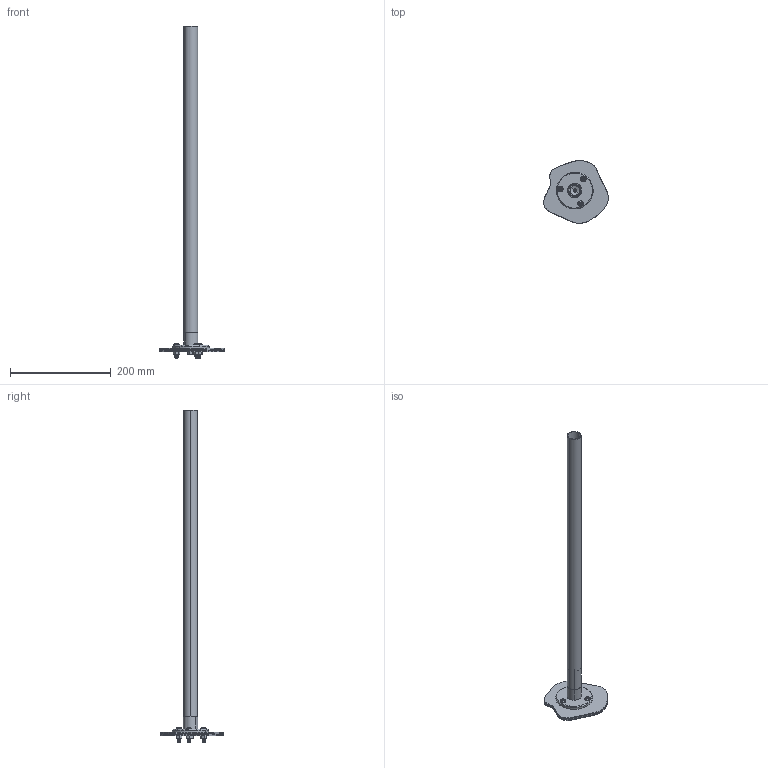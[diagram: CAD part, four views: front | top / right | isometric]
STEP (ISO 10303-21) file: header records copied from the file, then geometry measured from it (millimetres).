
FILE_DESCRIPTION (( 'STEP AP214' ), '1' );
FILE_NAME ('Threaded End to Flange to Perpendicular Surface Connection.STEP', '2013-08-19T14:15:29', ( 'ydmin' ), ( 'Microsoft' ), 'SwSTEP 2.0', 'SolidWorks 2013', '' );
FILE_SCHEMA (( 'AUTOMOTIVE_DESIGN' ));
Length unit declared in the file: inch
Products named in the file (7): Perpendicular Surface_With Mounting Holes; Threaded End to Flange to Perpendicular Surface Connection; 95479A111_95479A111; 6.000 Inch Tube; 91255A542_91255A542; DRP-002-0518-00; DRP-002-0506-00
Assembly tree (11 placements, depth 2):
  Threaded End to Flange to Perpendicular Surface Connection
    Perpendicular Surface_With Mounting Holes
    DRP-002-0506-00
    DRP-002-0518-00
    91255A542_91255A542  x3
    6.000 Inch Tube
    95479A111_95479A111  x4
Bounding box: 128.66 x 124.76 x 660.4 mm (x, y, z)
Volume: 181453.7 mm3; surface area: 201949.5 mm2
Topology: 15 solids, 15 shells, 1102 faces, 2287 edges, 1221 vertices
Faces by surface type: cone 508, cylinder 462, plane 108, bspline 14, sphere 8, torus 2
Entity records: 27384 total; most frequent: CARTESIAN_POINT 12593, DIRECTION 2394, ORIENTED_EDGE 2314, EDGE_CURVE 1157, AXIS2_PLACEMENT_3D 939, VERTEX_POINT 628, EDGE_LOOP 595, ADVANCED_FACE 553
